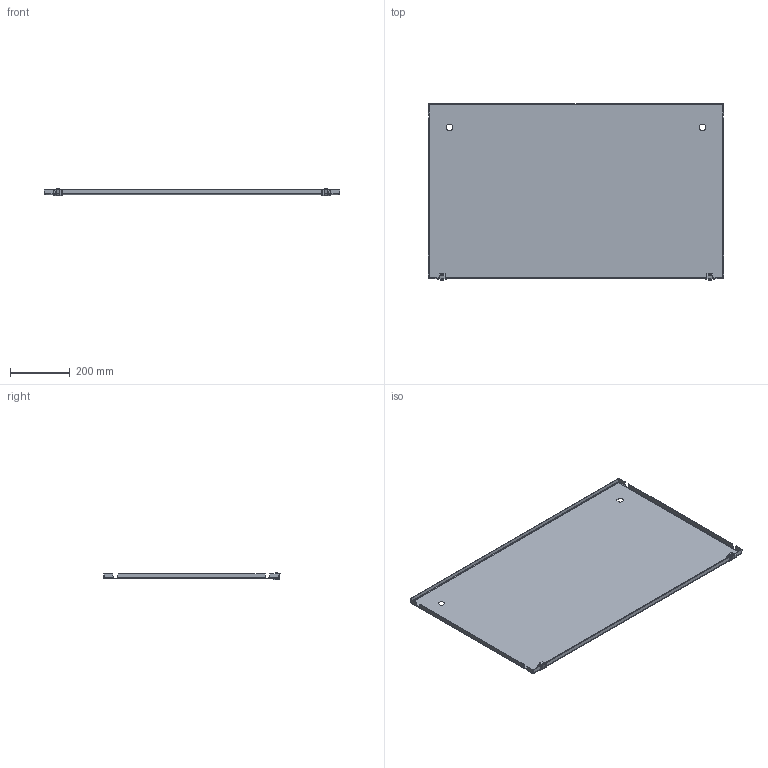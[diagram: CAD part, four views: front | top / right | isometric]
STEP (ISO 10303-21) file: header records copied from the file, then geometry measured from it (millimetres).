
FILE_DESCRIPTION (( 'STEP AP214' ), '1' );
FILE_NAME ('Äâåðü âíåøíÿÿ ìîäóëüíàÿ OptiBox M-1000õ600 (259188).STEP', '2018-07-16T07:17:16', ( '' ), ( '' ), 'SwSTEP 2.0', 'SolidWorks 2018', '' );
FILE_SCHEMA (( 'AUTOMOTIVE_DESIGN' ));
Length unit declared in the file: millimetre
Products named in the file (4): Äâåðü âíåøíÿÿ ìîäóëüíàÿ OptiBox M-1000õ600 (259188); ïåòëÿ äëÿ âíåøíåé äâåðè; Ïåòëÿ2
Assembly tree (5 placements, depth 2):
  Äâåðü âíåøíÿÿ ìîäóëüíàÿ OptiBox M-1000õ600 (259188)
    Äâåðü âíåøíÿÿ ìîäóëüíàÿ OptiBox M-1000õ600 (259188)
    ïåòëÿ äëÿ âíåøíåé äâåðè  x2
    Ïåòëÿ2  x2
Bounding box: 992 x 591.87 x 23.87 mm (x, y, z)
Volume: 1257589.2 mm3; surface area: 1262001.9 mm2
Topology: 5 solids, 5 shells, 208 faces, 508 edges, 312 vertices
Faces by surface type: plane 146, cylinder 46, bspline 16
Entity records: 5732 total; most frequent: CARTESIAN_POINT 1969, ORIENTED_EDGE 768, DIRECTION 692, EDGE_CURVE 384, LINE 290, VECTOR 290, VERTEX_POINT 232, AXIS2_PLACEMENT_3D 201
